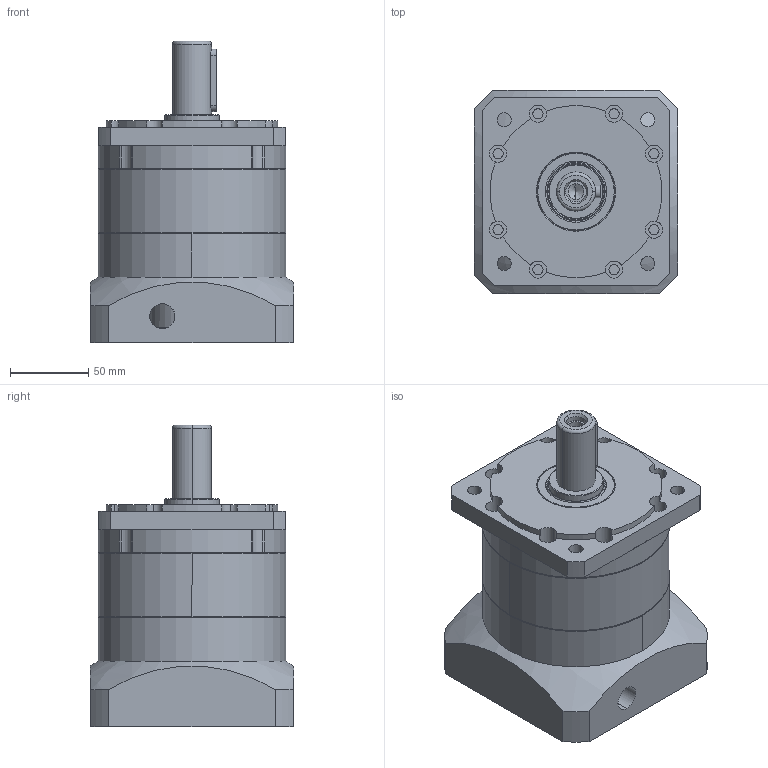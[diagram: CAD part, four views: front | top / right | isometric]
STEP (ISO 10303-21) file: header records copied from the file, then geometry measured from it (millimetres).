
FILE_DESCRIPTION (( 'STEP AP203' ), '1' );
FILE_NAME ('PAW120-L1-22-110-145.STEP', '2024-05-11T03:51:13', ( 'Windows User' ), ( 'P R C' ), 'SwSTEP 2.0', 'SolidWorks 2016', '' );
FILE_SCHEMA (( 'CONFIG_CONTROL_DESIGN' ));
Length unit declared in the file: millimetre
Products named in the file (9): PAW120-薊粣ん_LZ03; TC35-50-8_TC-34.9-55-7; 内六角圆柱头螺钉M8×25; 深沟球轴承 ZC6009ZZ; 邧埴瑩 8x7x40; PAW120-L1-22-110-145; PAW120-奻裔啣; PAW120-内齿圈; PAW120-帣釱
Assembly tree (8 placements, depth 2):
  PAW120-L1-22-110-145
    PAW120-奻裔啣
    PAW120-内齿圈
    PAW120-帣釱
    PAW120-薊粣ん_LZ03
    TC35-50-8_TC-34.9-55-7
    内六角圆柱头螺钉M8×25
    深沟球轴承 ZC6009ZZ
    邧埴瑩 8x7x40
Bounding box: 130 x 130 x 193 mm (x, y, z)
Volume: 1542182.4 mm3; surface area: 236056.3 mm2
Topology: 8 solids, 8 shells, 1055 faces, 2871 edges, 1875 vertices
Faces by surface type: plane 534, cylinder 184, bspline 118, sphere 84, cone 71, torus 64
Entity records: 43008 total; most frequent: CARTESIAN_POINT 16283, ORIENTED_EDGE 5644, DIRECTION 4895, EDGE_CURVE 2822, VERTEX_POINT 1849, AXIS2_PLACEMENT_3D 1673, LINE 1549, VECTOR 1549
